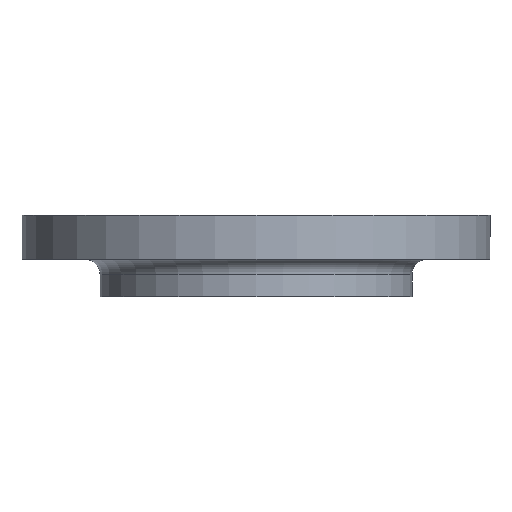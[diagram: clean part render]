
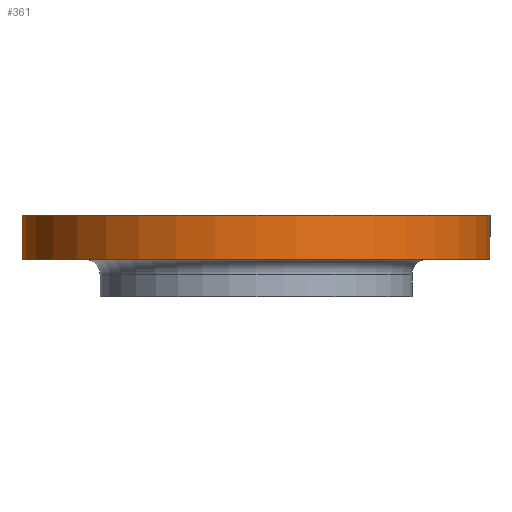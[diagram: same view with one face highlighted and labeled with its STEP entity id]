
A CAD part, front view. The second image highlights one B-rep face of the part: STEP entity #361.
In plain terms, the highlighted cylindrical face has radius 150 mm (diameter 300 mm), a partial arc.
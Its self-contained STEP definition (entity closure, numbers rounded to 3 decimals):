
#52 = CARTESIAN_POINT ( 'NONE',  ( -150., 0., 0. ) ) ;
#66 = CIRCLE ( 'NONE', #84, 150. ) ;
#77 = AXIS2_PLACEMENT_3D ( 'NONE', #440, #448, #449 ) ;
#84 = AXIS2_PLACEMENT_3D ( 'NONE', #450, #453, #454 ) ;
#145 = DIRECTION ( 'NONE',  ( 1., 0., 0. ) ) ;
#153 = DIRECTION ( 'NONE',  ( 0., 0., 1. ) ) ;
#171 = CARTESIAN_POINT ( 'NONE',  ( 0., 0., 0. ) ) ;
#194 = CARTESIAN_POINT ( 'NONE',  ( -150., 0., -28. ) ) ;
#203 = LINE ( 'NONE', #252, #383 ) ;
#224 = DIRECTION ( 'NONE',  ( 0., 0., 1. ) ) ;
#235 = CARTESIAN_POINT ( 'NONE',  ( -150., 0., -85. ) ) ;
#244 = DIRECTION ( 'NONE',  ( 0., 0., 1. ) ) ;
#252 = CARTESIAN_POINT ( 'NONE',  ( 150., 0., -85. ) ) ;
#268 = CARTESIAN_POINT ( 'NONE',  ( 150., 0., 0. ) ) ;
#319 = VECTOR ( 'NONE', #244, 1000. ) ;
#331 = CARTESIAN_POINT ( 'NONE',  ( 150., 0., -28. ) ) ;
#361 = ADVANCED_FACE ( 'NONE', ( #438 ), #439, .T. ) ;
#365 = EDGE_CURVE ( 'NONE', #598, #866, #66, .T. ) ;
#383 = VECTOR ( 'NONE', #224, 1000. ) ;
#438 = FACE_OUTER_BOUND ( 'NONE', #876, .T. ) ;
#439 = CYLINDRICAL_SURFACE ( 'NONE', #77, 150. ) ;
#440 = CARTESIAN_POINT ( 'NONE',  ( 0., 0., -85. ) ) ;
#448 = DIRECTION ( 'NONE',  ( 0., 0., 1. ) ) ;
#449 = DIRECTION ( 'NONE',  ( 1., 0., 0. ) ) ;
#450 = CARTESIAN_POINT ( 'NONE',  ( 0., 0., -28. ) ) ;
#453 = DIRECTION ( 'NONE',  ( 0., 0., 1. ) ) ;
#454 = DIRECTION ( 'NONE',  ( 1., 0., 0. ) ) ;
#532 = AXIS2_PLACEMENT_3D ( 'NONE', #171, #153, #145 ) ;
#536 = LINE ( 'NONE', #235, #319 ) ;
#557 = EDGE_CURVE ( 'NONE', #598, #685, #536, .T. ) ;
#565 = EDGE_CURVE ( 'NONE', #866, #595, #203, .T. ) ;
#595 = VERTEX_POINT ( 'NONE', #268 ) ;
#598 = VERTEX_POINT ( 'NONE', #194 ) ;
#685 = VERTEX_POINT ( 'NONE', #52 ) ;
#721 = ORIENTED_EDGE ( 'NONE', *, *, #557, .F. ) ;
#723 = ORIENTED_EDGE ( 'NONE', *, *, #365, .T. ) ;
#725 = ORIENTED_EDGE ( 'NONE', *, *, #565, .T. ) ;
#726 = ORIENTED_EDGE ( 'NONE', *, *, #923, .F. ) ;
#820 = CIRCLE ( 'NONE', #532, 150. ) ;
#866 = VERTEX_POINT ( 'NONE', #331 ) ;
#876 = EDGE_LOOP ( 'NONE', ( #721, #723, #725, #726 ) ) ;
#923 = EDGE_CURVE ( 'NONE', #685, #595, #820, .T. ) ;
